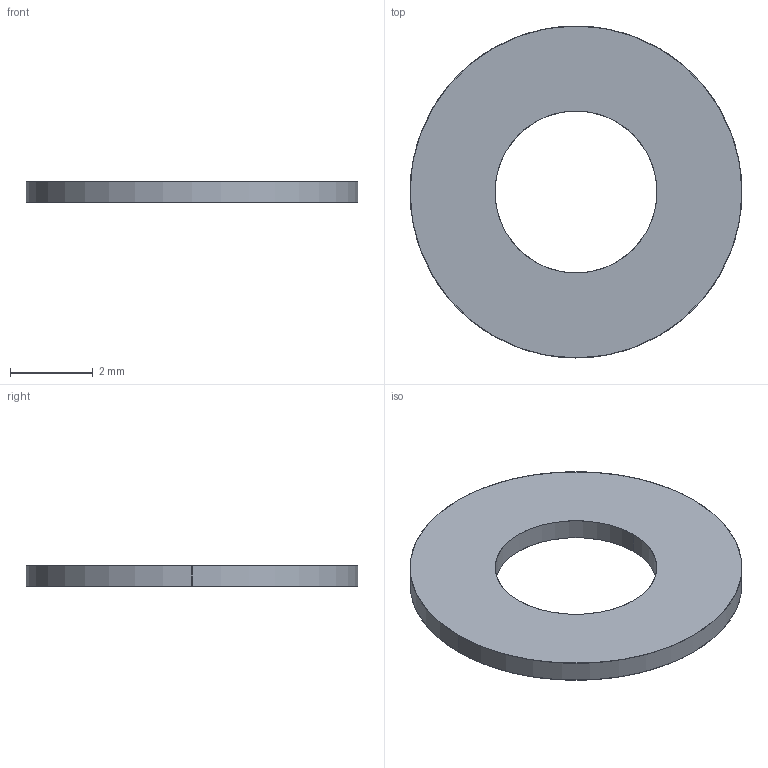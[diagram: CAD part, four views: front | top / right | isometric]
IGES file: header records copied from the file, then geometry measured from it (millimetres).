
Start section: SolidWorks IGES file using analytic representation for surfaces
Global section: file name: C:\Documents and Settings\CAD53\デスクトップ\ガスケット\122890.IGS; native system: SolidWorks 2006 by SolidWorks Corporation; preprocessor: SolidWorks 2006 by SolidWorks Corporation; author: CAD53; date: 080919.140855; units: millimetre
Bounding box: 8 x 8 x 0.5 mm (x, y, z)
Surface area: 95.3 mm2 (no closed solid volume)
Topology: 0 solids, 0 shells, 6 faces, 144 edges, 144 vertices
Faces by surface type: revolution 4, bspline 2
